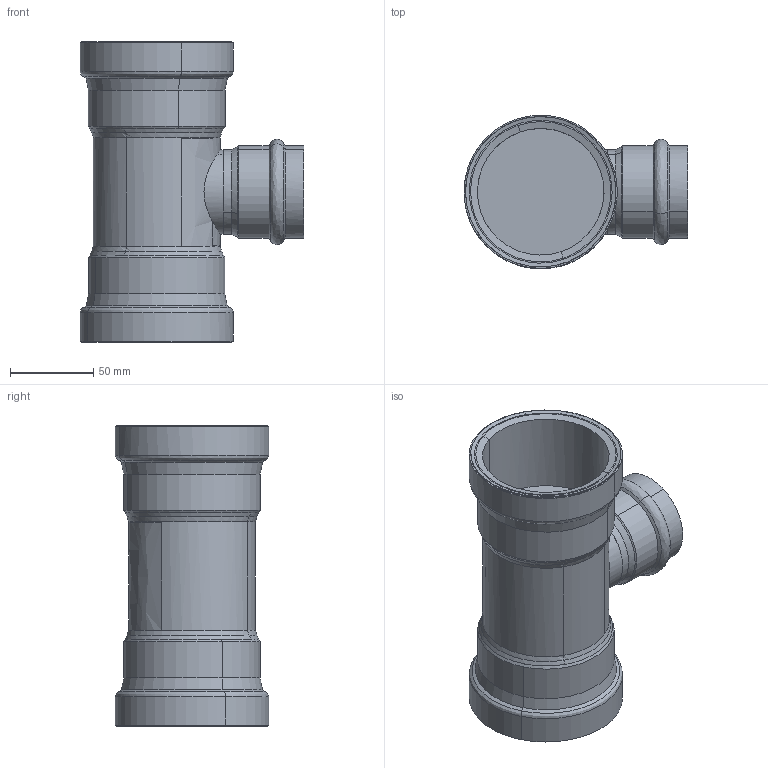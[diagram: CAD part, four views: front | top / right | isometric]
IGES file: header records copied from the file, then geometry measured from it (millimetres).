
Start section: 3D InterOp IGES (Version 25 0 1), Spatial Corp. Copyright (c) 1999-2007.
Global section: file name: pim0004539.igs; native system: Spatial Corp.; preprocessor: 3D InterOp ACIS/IGES; author: Cad-Pim; organization: TransMagic, Inc.; date: 20150430.170041; units: millimetre
Bounding box: 134.35 x 92 x 180.21 mm (x, y, z)
Volume: 544327.4 mm3; surface area: 101368.3 mm2
Topology: 1 solids, 1 shells, 82 faces, 224 edges, 150 vertices
Faces by surface type: bspline 28, cone 28, cylinder 26
